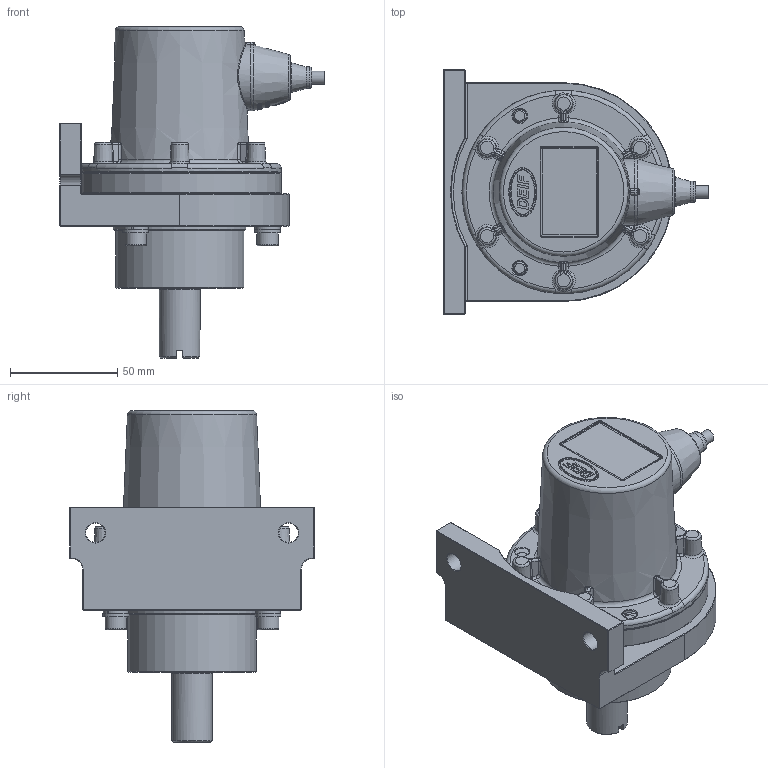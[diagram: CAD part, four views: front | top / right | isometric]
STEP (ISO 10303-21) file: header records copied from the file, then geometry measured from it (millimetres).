
FILE_DESCRIPTION(/* description */ (''),/* implementation_level */ '2;1');
FILE_NAME(/* name */ 'RTX800_Customer file_with bracket.stp',/* time_stamp */ '2026-06-01T10:00:56+02:00',/* author */ ('euh'),/* organization */ (''),/* preprocessor_version */ 'ST-DEVELOPER v20',/* originating_system */ 'Autodesk Inventor 2023',/* authorisation */ '');
FILE_SCHEMA (('AUTOMOTIVE_DESIGN { 1 0 10303 214 3 1 1 }'));
Products named in the file (20): RTX800_Customer file_with bracket; 1121300019; 1101510015; 1100510127; 1129170005; 1134990007; 1135090401; 1136500603; 1121270001; 1120030007; 4154000251; 1134510015; 1135090301; 1134510016; 1135093501; 1129150083; 1120340016; BN 610 1032844 hexagon socket head cap screw M6x30; BN 672 1253611 helical spring lock washer with flat end M6; RTX800_wire for sensor
Assembly tree (36 placements, depth 2):
  RTX800_Customer file_with bracket
    1121300019
    1101510015
    1100510127
    1129170005
    1134990007
    1135090401  x4
    1136500603  x3
    1121270001
    1120030007
    4154000251
    1134510015
    1135090301  x4
    1134510016
    1135093501  x6
    1129150083
    1120340016
    BN 610 1032844 hexagon socket head cap screw M6x30  x3
    BN 672 1253611 helical spring lock washer with flat end M6  x3
    RTX800_wire for sensor
Bounding box: 123.5 x 114 x 154.8 mm (x, y, z)
Volume: 358871 mm3; surface area: 147924.7 mm2
Topology: 40 solids, 40 shells, 2517 faces, 6512 edges, 4208 vertices
Faces by surface type: bspline 933, plane 695, cylinder 364, cone 363, torus 140, sphere 22
Full cylindrical faces by diameter (mm): 3 x5, 3.2 x4, 3.242 x4, 3.5 x6, 4 x4, 4.2 x6, 4.5 x5, 4.6 x1, 4.917 x3, 5.5 x4, 6 x5, 6.4 x3, 6.9 x1, 7 x7, 8.1 x6, 8.4 x4, 9 x3, 10 x4, 12 x3, 14.3 x1, 15 x3, 18 x1, 18.6 x2, 19 x1, 21.762 x6, 22 x1, 22.5 x1, 25.333 x3, 26 x1, 28.667 x2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
Entity records: 91756 total; most frequent: CARTESIAN_POINT 44662, ORIENTED_EDGE 10974, DIRECTION 6923, EDGE_CURVE 5487, VERTEX_POINT 3562, AXIS2_PLACEMENT_3D 2372, EDGE_LOOP 2356, LINE 2179
